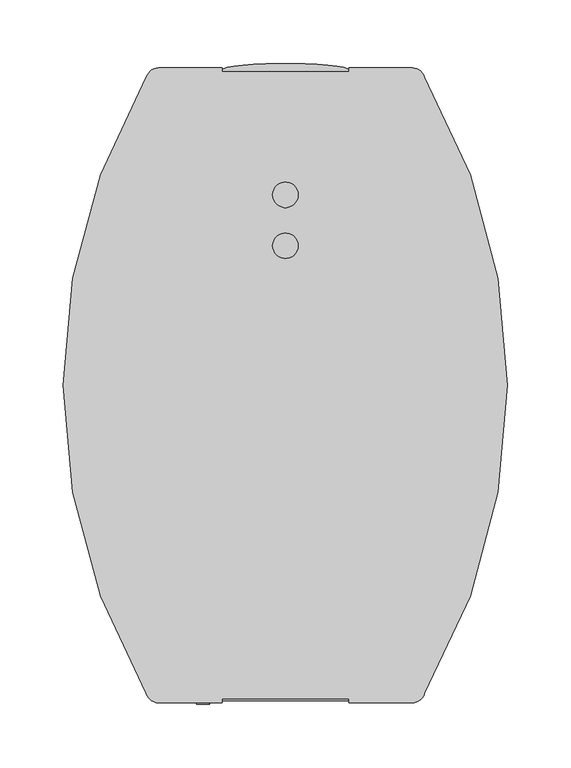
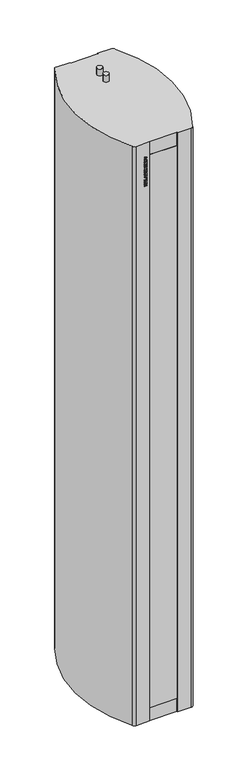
"""IFC4 building model written with IfcOpenShell, lengths in millimetres: proxy geometry, ADSK_Завеса дизайнерская_Водяная : KVC-S22W35-31."""

from ifc_helpers import new_model, si_unit, point, frame, origin, place, context, project, spatial, polyline, circle_curve, ellipse_curve, trimmed, outline, extrude, faceted_brep, source, transform, mapped, element, save
from ifc_brep_helpers import plane_surface, cylinder_surface, extruded_surface, advanced_brep


def mechanical_equipment_6004fcc8(model_context):
    return source(origin(), model_context, "Body", "SolidModel", [
        extrude(outline(polyline([(2050.0784314, -70.0), (2050.0784314, -60.0), (2053.2156863, -60.0), (2053.2156863, -61.7647059), (2054.9865196, -63.7745098), (2056.8186275, -60.0), (2060.6666667, -60.0), (2057.192402, -66.2775735), (2060.4705882, -70.0), (2056.1997549, -70.0), (2053.2156863, -66.2224265), (2053.2156863, -70.0), (2050.0784314, -70.0)])), frame((0.0, -251.0, 0.0), z_axis=(0.0, 1.0, 0.0), x_axis=(0.0, 0.0, 1.0)), (0.0, 0.0, 1.0), 1.0),
        extrude(outline(polyline([(2067.6642157, -61.5686275), (2068.1176471, -60.0), (2071.4509804, -60.0), (2068.0778186, -70.0), (2064.0398284, -70.0), (2060.6666667, -60.0), (2064.0, -60.0), (2064.4319853, -61.5686275), (2067.6642157, -61.5686275)]), holes=[polyline([(2067.0698529, -63.9215686), (2065.0814951, -63.9215686), (2066.0588235, -67.4540441), (2067.0698529, -63.9215686)])]), frame((0.0, -251.0, 0.0), z_axis=(0.0, 1.0, 0.0), x_axis=(0.0, 0.0, 1.0)), (0.0, 0.0, 1.0), 1.0),
        extrude(outline(polyline([(2072.4313725, -70.0), (2072.4313725, -60.0), (2080.2745098, -60.0), (2080.2745098, -62.3529412), (2075.5686275, -62.3529412), (2075.5686275, -70.0), (2072.4313725, -70.0)])), frame((0.0, -251.0, 0.0), z_axis=(0.0, 1.0, 0.0), x_axis=(0.0, 0.0, 1.0)), (0.0, 0.0, 1.0), 1.0),
        extrude(outline(polyline([(2087.6642157, -61.5686275), (2088.1176471, -60.0), (2091.4509804, -60.0), (2088.0778186, -70.0), (2084.0398284, -70.0), (2080.6666667, -60.0), (2084.0, -60.0), (2084.4319853, -61.5686275), (2087.6642157, -61.5686275)]), holes=[polyline([(2087.0698529, -63.9215686), (2085.0814951, -63.9215686), (2086.0588235, -67.4540441), (2087.0698529, -63.9215686)])]), frame((0.0, -251.0, 0.0), z_axis=(0.0, 1.0, 0.0), x_axis=(0.0, 0.0, 1.0)), (0.0, 0.0, 1.0), 1.0),
        extrude(outline(polyline([(2091.8431373, -63.3394608), (2092.9491422, -60.8026961), (2096.4601716, -59.8039216), (2098.8560049, -60.2297794), (2100.3342525, -61.4813113), (2100.8627451, -63.28125), (2100.4675245, -64.7870711), (2099.2022059, -65.9129902), (2096.3223039, -66.8106618), (2096.1905637, -68.4313725), (2096.9641544, -68.1050858), (2097.3333333, -67.0588235), (2100.4705882, -67.2395833), (2099.2925858, -69.4883578), (2096.4172794, -70.1960784), (2093.9969363, -69.8039216), (2092.6749387, -68.7285539), (2092.2352941, -67.276348), (2093.1023284, -65.3492647), (2095.9761029, -64.1237745), (2097.7254902, -62.8186275), (2097.4114583, -62.0818015), (2096.5183824, -61.7647059), (2095.3204657, -62.3958333), (2094.9803922, -63.5294118), (2091.8431373, -63.3394608)])), frame((0.0, -251.0, 0.0), z_axis=(0.0, 1.0, 0.0), x_axis=(0.0, 0.0, 1.0)), (0.0, 0.0, 1.0), 1.0),
        extrude(outline(polyline([(2102.4313725, -70.0), (2102.4313725, -60.0), (2105.5686275, -60.0), (2105.5686275, -64.1176471), (2108.9019608, -64.1176471), (2108.9019608, -60.0), (2112.0392157, -60.0), (2112.0392157, -70.0), (2108.9019608, -70.0), (2108.9019608, -66.4705882), (2105.5686275, -66.4705882), (2105.5686275, -70.0), (2102.4313725, -70.0)])), frame((0.0, -251.0, 0.0), z_axis=(0.0, 1.0, 0.0), x_axis=(0.0, 0.0, 1.0)), (0.0, 0.0, 1.0), 1.0),
        extrude(outline(polyline([(2114.0, -70.0), (2114.0, -60.0), (2116.9411765, -60.0), (2116.9411765, -65.4901961), (2120.6666667, -60.0), (2123.6078431, -60.0), (2123.6078431, -70.0), (2120.6666667, -70.0), (2120.6666667, -64.4730392), (2116.9197304, -70.0), (2114.0, -70.0)])), frame((0.0, -251.0, 0.0), z_axis=(0.0, 1.0, 0.0), x_axis=(0.0, 0.0, 1.0)), (0.0, 0.0, 1.0), 1.0),
        extrude(outline(polyline([(-60.0, -251.0), (-70.0, -251.0), (-70.0, -250.0), (-60.0, -250.0), (-60.0, -251.0)])), frame((0.0, 0.0, 2125.7647059), z_axis=(0.0, 0.0, 1.0), x_axis=(1.0, 0.0, 0.0)), (0.0, 0.0, 1.0), 3.1372549),
        extrude(outline(polyline([(2131.0588235, -70.0), (2131.0588235, -60.0), (2134.1960784, -60.0), (2134.1960784, -61.7647059), (2135.9669118, -63.7745098), (2137.7990196, -60.0), (2141.6470588, -60.0), (2138.1727941, -66.2775735), (2141.4509804, -70.0), (2137.1801471, -70.0), (2134.1960784, -66.2224265), (2134.1960784, -70.0), (2131.0588235, -70.0)])), frame((0.0, -251.0, 0.0), z_axis=(0.0, 1.0, 0.0), x_axis=(0.0, 0.0, 1.0)), (0.0, 0.0, 1.0), 1.0),
        extrude(outline(polyline([(2142.2352941, -64.9938725), (2142.9261642, -62.0603554), (2144.7291667, -60.346201), (2147.5386029, -59.8039216), (2150.3250613, -60.4304534), (2152.036152, -62.1859681), (2152.627451, -65.0765931), (2151.2732843, -68.8495711), (2147.4129902, -70.1960784), (2143.6032475, -68.8250613), (2142.2352941, -64.9938725)]), holes=[polyline([(2145.372549, -64.9938725), (2145.9301471, -67.1813725), (2147.4068627, -67.8431373), (2148.9295343, -67.1920956), (2149.4901961, -65.1286765), (2148.9525123, -62.8048407), (2147.4344363, -62.1568627), (2145.9270833, -62.8186275), (2145.372549, -64.9938725)])]), frame((0.0, -251.0, 0.0), z_axis=(0.0, 1.0, 0.0), x_axis=(0.0, 0.0, 1.0)), (0.0, 0.0, 1.0), 1.0),
        extrude(outline(polyline([(2153.4117647, -70.0), (2157.1280637, -60.0), (2160.4583333, -60.0), (2164.1960784, -70.0), (2160.8627451, -70.0), (2158.8039216, -62.8033088), (2156.7420343, -70.0), (2153.4117647, -70.0)])), frame((0.0, -251.0, 0.0), z_axis=(0.0, 1.0, 0.0), x_axis=(0.0, 0.0, 1.0)), (0.0, 0.0, 1.0), 1.0),
        advanced_brep(
        [(-50.0, 250.0, 2214.0), (-100.0, 250.0, 2214.0), (-109.6523684, 242.6137681, 2214.0), (-109.6523684, -242.6137681, 2214.0), (-100.0, -250.0, 2214.0), (-50.0, -250.0, 2214.0), (-50.0, -247.0, 2214.0), (50.0, -247.0, 2214.0), (50.0, -250.0, 2214.0), (100.0, -250.0, 2214.0), (109.6523684, -242.6137681, 2214.0), (109.6523684, 242.6137681, 2214.0), (100.0, 250.0, 2214.0), (50.0, 250.0, 2214.0), (50.0, 247.0, 2214.0), (-50.0, 247.0, 2214.0), (10.0, 150.0, 2214.0), (-10.0, 150.0, 2214.0), (10.0, 110.0, 2214.0), (-10.0, 110.0, 2214.0), (-50.0, 250.0, 0.0), (-50.0, 247.0, 0.0), (50.0, 247.0, 0.0), (50.0, 250.0, 0.0), (100.0, 250.0, 0.0), (109.6523684, 242.6137681, 0.0), (109.6523684, -242.6137681, 0.0), (100.0, -250.0, 0.0), (50.0, -250.0, 0.0), (50.0, -247.0, 0.0), (-50.0, -247.0, 0.0), (-50.0, -250.0, 0.0), (-100.0, -250.0, 0.0), (-109.6523684, -242.6137681, 0.0), (-109.6523684, 242.6137681, 0.0), (-100.0, 250.0, 0.0), (-10.0, 150.0, 2239.0), (10.0, 150.0, 2239.0), (-10.0, 110.0, 2239.0), (10.0, 110.0, 2239.0)],
        [
            (0, 1),
            (1, 2, circle_curve(frame((-100.0, 240.0, 2214.0), z_axis=(0.0, 0.0, 1.0), x_axis=(1.0, 0.0, 0.0)), 10.0)),
            (2, 3, circle_curve(frame((308.0454594, 0.0, 2214.0), z_axis=(0.0, 0.0, 1.0), x_axis=(1.0, 0.0, 0.0)), 483.0454594)),
            (3, 4, circle_curve(frame((-100.0, -240.0, 2214.0), z_axis=(0.0, 0.0, 1.0), x_axis=(1.0, 0.0, 0.0)), 10.0)),
            (4, 5),
            (5, 6),
            (6, 7),
            (7, 8),
            (8, 9),
            (9, 10, circle_curve(frame((100.0, -240.0, 2214.0), z_axis=(0.0, 0.0, 1.0), x_axis=(1.0, 0.0, 0.0)), 10.0)),
            (10, 11, circle_curve(frame((-308.0454594, 0.0, 2214.0), z_axis=(0.0, 0.0, 1.0), x_axis=(1.0, 0.0, 0.0)), 483.0454594)),
            (11, 12, circle_curve(frame((100.0, 240.0, 2214.0), z_axis=(0.0, 0.0, 1.0), x_axis=(1.0, 0.0, 0.0)), 10.0)),
            (12, 13),
            (13, 14),
            (14, 15),
            (15, 0),
            (16, 17, circle_curve(frame((0.0, 150.0, 2214.0), z_axis=(0.0, 0.0, -1.0), x_axis=(1.0, 0.0, 0.0)), 10.0)),
            (17, 16, circle_curve(frame((0.0, 150.0, 2214.0), z_axis=(0.0, 0.0, -1.0), x_axis=(1.0, 0.0, 0.0)), 10.0)),
            (18, 19, circle_curve(frame((0.0, 110.0, 2214.0), z_axis=(0.0, 0.0, -1.0), x_axis=(1.0, 0.0, 0.0)), 10.0)),
            (19, 18, circle_curve(frame((0.0, 110.0, 2214.0), z_axis=(0.0, 0.0, -1.0), x_axis=(1.0, 0.0, 0.0)), 10.0)),
            (20, 21),
            (21, 22),
            (22, 23),
            (23, 24),
            (24, 25, circle_curve(frame((100.0, 240.0, 0.0), z_axis=(0.0, 0.0, -1.0), x_axis=(1.0, 0.0, 0.0)), 10.0)),
            (25, 26, circle_curve(frame((-308.0454594, 0.0, 0.0), z_axis=(0.0, 0.0, -1.0), x_axis=(1.0, 0.0, 0.0)), 483.0454594)),
            (26, 27, circle_curve(frame((100.0, -240.0, 0.0), z_axis=(0.0, 0.0, -1.0), x_axis=(1.0, 0.0, 0.0)), 10.0)),
            (27, 28),
            (28, 29),
            (29, 30),
            (30, 31),
            (31, 32),
            (32, 33, circle_curve(frame((-100.0, -240.0, 0.0), z_axis=(0.0, 0.0, -1.0), x_axis=(1.0, 0.0, 0.0)), 10.0)),
            (33, 34, circle_curve(frame((308.0454594, 0.0, 0.0), z_axis=(0.0, 0.0, -1.0), x_axis=(1.0, 0.0, 0.0)), 483.0454594)),
            (34, 35, circle_curve(frame((-100.0, 240.0, 0.0), z_axis=(0.0, 0.0, -1.0), x_axis=(1.0, 0.0, 0.0)), 10.0)),
            (35, 20),
            (0, 20),
            (35, 1),
            (34, 2),
            (33, 3),
            (32, 4),
            (8, 28),
            (27, 9),
            (31, 5),
            (30, 6),
            (29, 7),
            (12, 24),
            (23, 13),
            (22, 14),
            (21, 15),
            (36, 37, circle_curve(frame((0.0, 150.0, 2239.0), z_axis=(0.0, 0.0, 1.0), x_axis=(1.0, 0.0, 0.0)), 10.0)),
            (37, 36, circle_curve(frame((0.0, 150.0, 2239.0), z_axis=(0.0, 0.0, 1.0), x_axis=(1.0, 0.0, 0.0)), 10.0)),
            (38, 39, circle_curve(frame((0.0, 110.0, 2239.0), z_axis=(0.0, 0.0, 1.0), x_axis=(1.0, 0.0, 0.0)), 10.0)),
            (39, 38, circle_curve(frame((0.0, 110.0, 2239.0), z_axis=(0.0, 0.0, 1.0), x_axis=(1.0, 0.0, 0.0)), 10.0)),
            (36, 17),
            (16, 37),
            (38, 19),
            (18, 39),
            (26, 10),
            (25, 11),
        ],
        [
            plane_surface(frame((-93.2688019, 250.0, 2214.0), z_axis=(0.0, 0.0, 1.0), x_axis=(-1.0, 0.0, 0.0))),
            plane_surface(frame((-93.2688019, 250.0, 0.0), z_axis=(0.0, 0.0, -1.0), x_axis=(1.0, 0.0, 0.0))),
            plane_surface(frame((-50.0, 250.0, 2214.0), z_axis=(0.0, 1.0, 0.0), x_axis=(0.0, 0.0, -1.0))),
            cylinder_surface(frame((-100.0, 240.0, 0.0), z_axis=(0.0, 0.0, 1.0), x_axis=(1.0, 0.0, 0.0)), 10.0),
            cylinder_surface(frame((308.0454594, 0.0, 0.0), z_axis=(0.0, 0.0, 1.0), x_axis=(1.0, 0.0, 0.0)), 483.0454594),
            cylinder_surface(frame((-100.0, -240.0, 0.0), z_axis=(0.0, 0.0, 1.0), x_axis=(1.0, 0.0, 0.0)), 10.0),
            plane_surface(frame((50.0, -250.0, 2214.0), z_axis=(0.0, -1.0, 0.0), x_axis=(0.0, 0.0, -1.0))),
            plane_surface(frame((-100.0, -250.0, 2214.0), z_axis=(0.0, -1.0, 0.0), x_axis=(0.0, 0.0, -1.0))),
            plane_surface(frame((-50.0, -250.0, 2214.0), z_axis=(1.0, 0.0, 0.0), x_axis=(0.0, 0.0, -1.0))),
            plane_surface(frame((-50.0, -247.0, 2214.0), z_axis=(0.0, -1.0, 0.0), x_axis=(0.0, 0.0, -1.0))),
            plane_surface(frame((50.0, -247.0, 2214.0), z_axis=(-1.0, 0.0, 0.0), x_axis=(0.0, 0.0, -1.0))),
            plane_surface(frame((100.0, 250.0, 2214.0), z_axis=(0.0, 1.0, 0.0), x_axis=(0.0, 0.0, -1.0))),
            plane_surface(frame((50.0, 250.0, 2214.0), z_axis=(-1.0, 0.0, 0.0), x_axis=(0.0, 0.0, -1.0))),
            plane_surface(frame((50.0, 247.0, 2214.0), z_axis=(0.0, 1.0, 0.0), x_axis=(0.0, 0.0, -1.0))),
            plane_surface(frame((-50.0, 247.0, 2214.0), z_axis=(1.0, 0.0, 0.0), x_axis=(0.0, 0.0, -1.0))),
            plane_surface(frame((10.0, 150.0, 2239.0), z_axis=(0.0, 0.0, 1.0), x_axis=(0.0, 1.0, 0.0))),
            cylinder_surface(frame((0.0, 150.0, 2214.0), z_axis=(0.0, 0.0, 1.0), x_axis=(1.0, 0.0, 0.0)), 10.0),
            cylinder_surface(frame((0.0, 110.0, 0.0), z_axis=(0.0, 0.0, 1.0), x_axis=(1.0, 0.0, 0.0)), 10.0),
            cylinder_surface(frame((100.0, -240.0, 0.0), z_axis=(0.0, 0.0, 1.0), x_axis=(1.0, 0.0, 0.0)), 10.0),
            cylinder_surface(frame((-308.0454594, 0.0, 0.0), z_axis=(0.0, 0.0, 1.0), x_axis=(1.0, 0.0, 0.0)), 483.0454594),
            cylinder_surface(frame((100.0, 240.0, 0.0), z_axis=(0.0, 0.0, 1.0), x_axis=(1.0, 0.0, 0.0)), 10.0),
        ],
        [
            (0, [[1, 2, 3, 4, 5, 6, 7, 8, 9, 10, 11, 12, 13, 14, 15, 16], [17, 18], [19, 20]]),
            (1, [[21, 22, 23, 24, 25, 26, 27, 28, 29, 30, 31, 32, 33, 34, 35, 36]]),
            (2, [[-1, 37, -36, 38]]),
            (3, [[-2, -38, -35, 39]]),
            (4, [[-3, -39, -34, 40]]),
            (5, [[-4, -40, -33, 41]]),
            (6, [[-9, 42, -28, 43]]),
            (7, [[-5, -41, -32, 44]]),
            (8, [[-6, -44, -31, 45]]),
            (9, [[-7, -45, -30, 46]]),
            (10, [[-8, -46, -29, -42]]),
            (11, [[-13, 47, -24, 48]]),
            (12, [[-14, -48, -23, 49]]),
            (13, [[-15, -49, -22, 50]]),
            (14, [[-16, -50, -21, -37]]),
            (15, [[51, 52]]),
            (15, [[53, 54]]),
            (16, [[-51, 55, -17, 56]]),
            (16, [[-52, -56, -18, -55]]),
            (17, [[-53, 57, -19, 58]]),
            (17, [[-54, -58, -20, -57]]),
            (18, [[-10, -43, -27, 59]]),
            (19, [[-11, -59, -26, 60]]),
            (20, [[-12, -60, -25, -47]]),
        ],
    ),
        faceted_brep([(50.0, -247.0, 2164.0), (-50.0, -247.0, 2164.0), (-50.0, -248.5, 2164.0), (50.0, -248.5, 2164.0), (50.0, -247.0, 50.0), (50.0, -248.5, 50.0), (-50.0, -248.5, 50.0), (-50.0, -247.0, 50.0)], [[[0, 1, 2, 3]], [[4, 5, 6, 7]], [[1, 0, 4, 7]], [[2, 1, 7, 6]], [[3, 2, 6, 5]], [[0, 3, 5, 4]]]),
        advanced_brep(
        [(-50.0, 248.5, 2164.0), (-50.0, 247.0, 2164.0), (50.0, 247.0, 2164.0), (50.0, 248.5, 2164.0), (-50.0, 248.5, 50.0), (50.0, 248.5, 50.0), (50.0, 247.0, 50.0), (-50.0, 247.0, 50.0)],
        [
            (0, 1),
            (1, 2),
            (2, 3),
            (3, 0, ellipse_curve(frame((0.0, 248.5, 2164.0), z_axis=(0.0, 0.0, 1.0), x_axis=(-1.0, 0.0, 0.0)), 50.0, 5.0)),
            (4, 5, ellipse_curve(frame((0.0, 248.5, 50.0), z_axis=(0.0, 0.0, -1.0), x_axis=(-1.0, 0.0, 0.0)), 50.0, 5.0)),
            (5, 6),
            (6, 7),
            (7, 4),
            (0, 4),
            (7, 1),
            (6, 2),
            (5, 3),
        ],
        [
            plane_surface(frame((-50.0, -247.0, 2164.0), z_axis=(0.0, 0.0, 1.0), x_axis=(-1.0, 0.0, 0.0))),
            plane_surface(frame((-50.0, -247.0, 50.0), z_axis=(0.0, 0.0, -1.0), x_axis=(1.0, 0.0, 0.0))),
            plane_surface(frame((-50.0, 248.5, 2164.0), z_axis=(-1.0, 0.0, 0.0), x_axis=(0.0, 0.0, -1.0))),
            plane_surface(frame((-50.0, 247.0, 2164.0), z_axis=(0.0, -1.0, 0.0), x_axis=(0.0, 0.0, -1.0))),
            plane_surface(frame((50.0, 247.0, 2164.0), z_axis=(1.0, 0.0, 0.0), x_axis=(0.0, 0.0, -1.0))),
            extruded_surface(trimmed(ellipse_curve(frame((0.0, 248.5, -2114.0), z_axis=(0.0, 0.0, 1.0), x_axis=(-1.0, 0.0, 0.0)), 50.0, 5.0), [point((50.0, 248.5, -2114.0))], [point((-50.0, 248.5, -2114.0))], True, "CARTESIAN"), (0.0, 0.0, 2114.0), 2114.0),
        ],
        [
            (0, [[1, 2, 3, 4]]),
            (1, [[5, 6, 7, 8]]),
            (2, [[-1, 9, -8, 10]]),
            (3, [[-2, -10, -7, 11]]),
            (4, [[-3, -11, -6, 12]]),
            (5, [[-4, -12, -5, -9]]),
        ],
    ),
    ])


if __name__ == "__main__":
    model = new_model("IFC4")
    model_context = context("Model", 3, world=origin())
    ifc_project = project(units=[si_unit("LENGTHUNIT", "METRE", prefix="MILLI")], contexts=[model_context])
    site = spatial("IfcSite", under=ifc_project)
    building = spatial("IfcBuilding", under=site)
    placement = place(None, origin())
    mechanical_equipment_shape = mechanical_equipment_6004fcc8(model_context)
    element("IfcBuildingElementProxy", 1, Name="ADSK_Завеса дизайнерская_Водяная : KVC-S22W35-31", ObjectType="ADSK_Завеса дизайнерская_Водяная : KVC-S22W35-31", at=placement, inside=building, context=model_context, shape_type="MappedRepresentation", body=[
        mapped(mechanical_equipment_shape, transform((0.0, 0.0, 0.0), x_axis=(1.0, 0.0, 0.0), y_axis=(0.0, 1.0, 0.0), z_axis=(0.0, 0.0, 1.0))),
    ])
    save(model, "model.ifc")
